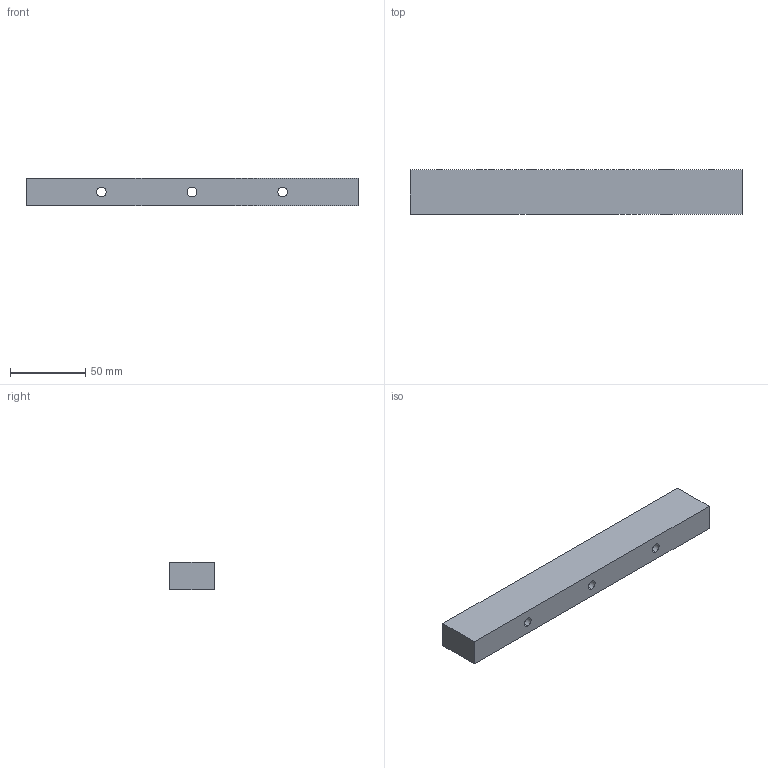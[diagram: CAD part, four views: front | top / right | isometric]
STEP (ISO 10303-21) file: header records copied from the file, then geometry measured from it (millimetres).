
FILE_DESCRIPTION (( 'STEP AP214' ), '1' );
FILE_NAME ('GZ30.06_V1导轨垫块2.STEP', '2021-06-03T09:15:01', ( '微软中国' ), ( 'Microsoft' ), 'SwSTEP 2.0', 'SolidWorks 2017', '' );
FILE_SCHEMA (( 'AUTOMOTIVE_DESIGN' ));
Length unit declared in the file: millimetre
Products named in the file (1): GZ30.06_V1絳寢菜輸2
Bounding box: 220 x 29.5 x 18 mm (x, y, z)
Volume: 111365.7 mm3; surface area: 24485.6 mm2
Topology: 1 solids, 1 shells, 37 faces, 88 edges, 52 vertices
Faces by surface type: cylinder 20, plane 9, cone 8
Entity records: 1156 total; most frequent: DIRECTION 196, CARTESIAN_POINT 170, ORIENTED_EDGE 160, EDGE_CURVE 80, AXIS2_PLACEMENT_3D 78, VERTEX_POINT 52, EDGE_LOOP 50, VECTOR 40
